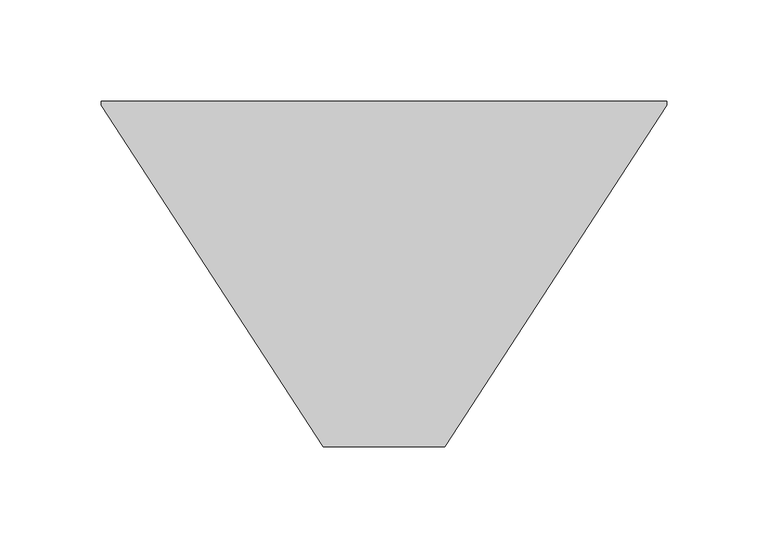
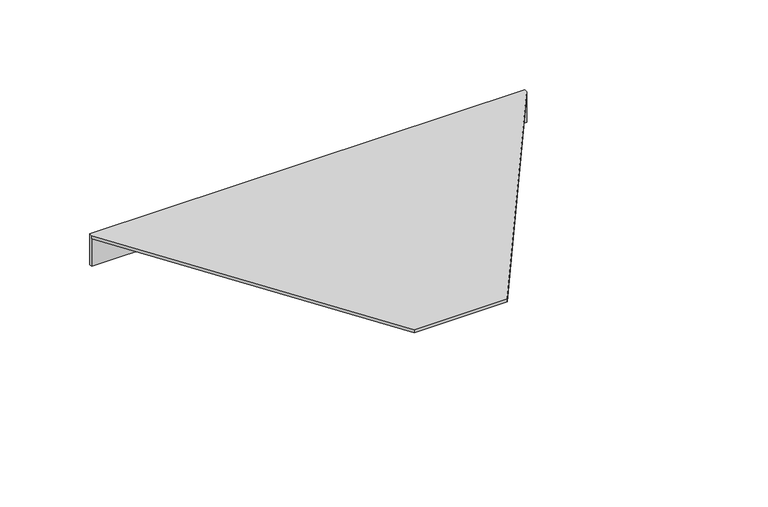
"""IFC4 building model written with IfcOpenShell, lengths in millimetres: cable carrier fitting geometry, BAKS_LD_CONN_Vertical connector light_LPLS : LPLS60."""

from ifc_helpers import new_model, si_unit, origin, place, context, project, spatial, faceted_brep, source, transform, mapped, element, save


def cable_carrier_fitting_6b69b3b7(model_context):
    return source(origin(), model_context, "Body", "Brep", [
        faceted_brep([(-140.0, 0.0, 2.0), (-30.0, -169.0, 2.0), (30.0, -169.0, 2.0), (140.0, 0.0, 2.0), (140.0, 2.0, 2.0), (-140.0, 2.0, 2.0), (140.0, 0.0, 0.0), (30.0, -169.0, 0.0), (-30.0, -169.0, 0.0), (-140.0, 0.0, 0.0), (140.0, 2.0, -19.0), (140.0, 0.0, -19.0), (-140.0, 0.0, -19.0), (-140.0, 2.0, -19.0)], [[[0, 1, 2, 3, 4, 5]], [[6, 7, 8, 9]], [[1, 0, 9, 8]], [[2, 1, 8, 7]], [[3, 2, 7, 6]], [[10, 11, 12, 13]], [[10, 13, 5, 4]], [[13, 12, 9, 0, 5]], [[12, 11, 6, 9]], [[11, 10, 4, 3, 6]]]),
    ])


if __name__ == "__main__":
    model = new_model("IFC4")
    model_context = context("Model", 3, world=origin())
    ifc_project = project(units=[si_unit("LENGTHUNIT", "METRE", prefix="MILLI")], contexts=[model_context])
    site = spatial("IfcSite", under=ifc_project)
    building = spatial("IfcBuilding", under=site)
    placement = place(None, origin())
    cable_carrier_fitting_shape = cable_carrier_fitting_6b69b3b7(model_context)
    element("IfcCableCarrierFitting", 1, ObjectType="BAKS_LD_CONN_Vertical connector light_LPLS : LPLS60", at=placement, inside=building, context=model_context, shape_type="MappedRepresentation", body=[
        mapped(cable_carrier_fitting_shape, transform((0.0, 0.0, 0.0), x_axis=(1.0, 0.0, 0.0), y_axis=(0.0, 1.0, 0.0), z_axis=(0.0, 0.0, 1.0))),
    ])
    save(model, "model.ifc")
